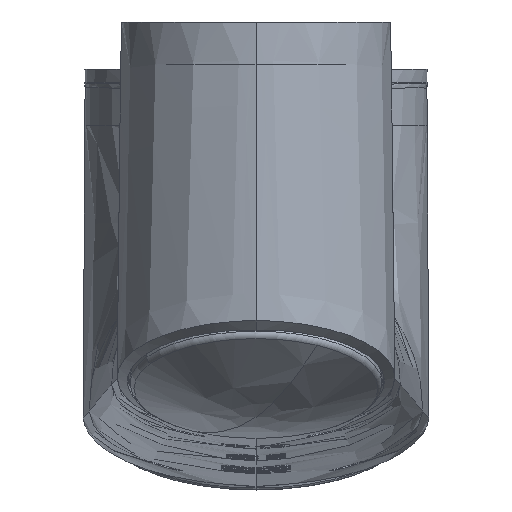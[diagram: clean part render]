
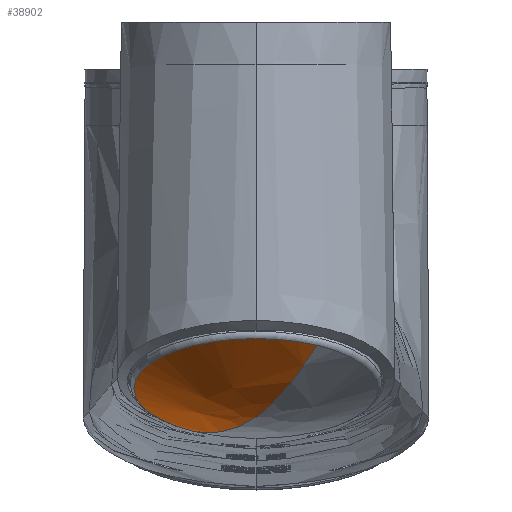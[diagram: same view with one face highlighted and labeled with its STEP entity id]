
A CAD part, top view. The second image highlights one B-rep face of the part: STEP entity #38902.
In plain terms, the highlighted free-form (B-spline) face has degree [2, 3] with [3, 4] control points.
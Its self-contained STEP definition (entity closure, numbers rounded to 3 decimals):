
#286 = EDGE_LOOP ( 'NONE', ( #81340, #64168, #33268, #3053 ) ) ;
#2124 = CARTESIAN_POINT ( 'NONE',  ( 103.565, -209.495, 1102.43 ) ) ;
#3053 = ORIENTED_EDGE ( 'NONE', *, *, #48275, .T. ) ;
#4974 = CARTESIAN_POINT ( 'NONE',  ( 123.191, -239.286, 1035.518 ) ) ;
#6488 = CARTESIAN_POINT ( 'NONE',  ( 176.809, -201.513, 1120.358 ) ) ;
#9215 = CARTESIAN_POINT ( 'NONE',  ( 137.896, -241.598, 1064.427 ) ) ;
#9493 = CARTESIAN_POINT ( 'NONE',  ( 123.191, -239.286, 1035.518 ) ) ;
#11956 = CARTESIAN_POINT ( 'NONE',  ( 120.174, -214.697, 1124.848 ) ) ;
#15996 = DIRECTION ( 'NONE',  ( 0., -0.914, 0.407 ) ) ;
#19361 = CARTESIAN_POINT ( 'NONE',  ( 30.322, -217.478, 1084.501 ) ) ;
#23464 = CARTESIAN_POINT ( 'NONE',  ( 150., -220.399, 1077.938 ) ) ;
#29147 = DIRECTION ( 'NONE',  ( 0., -0.914, 0.407 ) ) ;
#30408 = B_SPLINE_CURVE_WITH_KNOTS ( 'NONE', 2,
 ( #72506, #41020, #6488 ),
 .UNSPECIFIED., .F., .F.,
 ( 3, 3 ),
 ( 0., 0.931 ),
 .UNSPECIFIED. ) ;
#31496 = CARTESIAN_POINT ( 'NONE',  ( 150., -233.071, 1083.58 ) ) ;
#32491 = FACE_OUTER_BOUND ( 'NONE', #286, .T. ) ;
#32985 = EDGE_CURVE ( 'NONE', #35800, #51665, #55063, .T. ) ;
#33268 = ORIENTED_EDGE ( 'NONE', *, *, #53954, .T. ) ;
#35800 = VERTEX_POINT ( 'NONE', #31496 ) ;
#37783 = CARTESIAN_POINT ( 'NONE',  ( 150., -233.071, 1083.58 ) ) ;
#38902 = ADVANCED_FACE ( 'NONE', ( #32491 ), #47041, .F. ) ;
#39053 = CARTESIAN_POINT ( 'NONE',  ( 150., -233.071, 1083.58 ) ) ;
#39564 = AXIS2_PLACEMENT_3D ( 'NONE', #23464, #29147, #42709 ) ;
#41020 = CARTESIAN_POINT ( 'NONE',  ( 162.104, -224.544, 1102.732 ) ) ;
#42386 = CIRCLE ( 'NONE', #82863, 53.618 ) ;
#42709 = DIRECTION ( 'NONE',  ( -0.866, 0.203, 0.457 ) ) ;
#44781 = CARTESIAN_POINT ( 'NONE',  ( 150., -233.071, 1083.58 ) ) ;
#47041 =( BOUNDED_SURFACE ( )  B_SPLINE_SURFACE ( 2, 3, ( 
 ( #51765, #44781, #39053, #37783 ),
 ( #64887, #71017, #11956, #65732 ),
 ( #4974, #19361, #71852, #66158 ) ),
 .UNSPECIFIED., .F., .F., .T. ) 
 B_SPLINE_SURFACE_WITH_KNOTS ( ( 3, 3 ),
 ( 4, 4 ),
 ( 0., 0.931 ),
 ( 0., 1. ),
 .UNSPECIFIED. ) 
 GEOMETRIC_REPRESENTATION_ITEM ( )  RATIONAL_B_SPLINE_SURFACE ( (
 ( 1., 0.333, 0.333, 1.),
 ( 1., 0.333, 0.333, 1.),
 ( 1., 0.333, 0.333, 1.) ) ) 
 REPRESENTATION_ITEM ( '' )  SURFACE ( )  );
#47940 = CIRCLE ( 'NONE', #39564, 53.618 ) ;
#48275 = EDGE_CURVE ( 'NONE', #83968, #51665, #42386, .T. ) ;
#50324 = CARTESIAN_POINT ( 'NONE',  ( 123.191, -239.286, 1035.518 ) ) ;
#51665 = VERTEX_POINT ( 'NONE', #9493 ) ;
#51765 = CARTESIAN_POINT ( 'NONE',  ( 150., -233.071, 1083.58 ) ) ;
#53954 = EDGE_CURVE ( 'NONE', #55745, #83968, #47940, .T. ) ;
#54079 = DIRECTION ( 'NONE',  ( -0.866, 0.203, 0.457 ) ) ;
#54891 = EDGE_CURVE ( 'NONE', #35800, #55745, #30408, .T. ) ;
#55063 = B_SPLINE_CURVE_WITH_KNOTS ( 'NONE', 2,
 ( #69126, #9215, #50324 ),
 .UNSPECIFIED., .F., .F.,
 ( 3, 3 ),
 ( 0., 0.931 ),
 .UNSPECIFIED. ) ;
#55745 = VERTEX_POINT ( 'NONE', #75523 ) ;
#64168 = ORIENTED_EDGE ( 'NONE', *, *, #54891, .T. ) ;
#64887 = CARTESIAN_POINT ( 'NONE',  ( 137.896, -241.598, 1064.427 ) ) ;
#65732 = CARTESIAN_POINT ( 'NONE',  ( 162.104, -224.544, 1102.732 ) ) ;
#66158 = CARTESIAN_POINT ( 'NONE',  ( 176.809, -201.513, 1120.358 ) ) ;
#69126 = CARTESIAN_POINT ( 'NONE',  ( 150., -233.071, 1083.58 ) ) ;
#71017 = CARTESIAN_POINT ( 'NONE',  ( 95.966, -231.752, 1086.543 ) ) ;
#71852 = CARTESIAN_POINT ( 'NONE',  ( 83.94, -179.704, 1169.341 ) ) ;
#72506 = CARTESIAN_POINT ( 'NONE',  ( 150., -233.071, 1083.58 ) ) ;
#74164 = CARTESIAN_POINT ( 'NONE',  ( 150., -220.399, 1077.938 ) ) ;
#75523 = CARTESIAN_POINT ( 'NONE',  ( 176.809, -201.513, 1120.358 ) ) ;
#81340 = ORIENTED_EDGE ( 'NONE', *, *, #32985, .F. ) ;
#82863 = AXIS2_PLACEMENT_3D ( 'NONE', #74164, #15996, #54079 ) ;
#83968 = VERTEX_POINT ( 'NONE', #2124 ) ;
